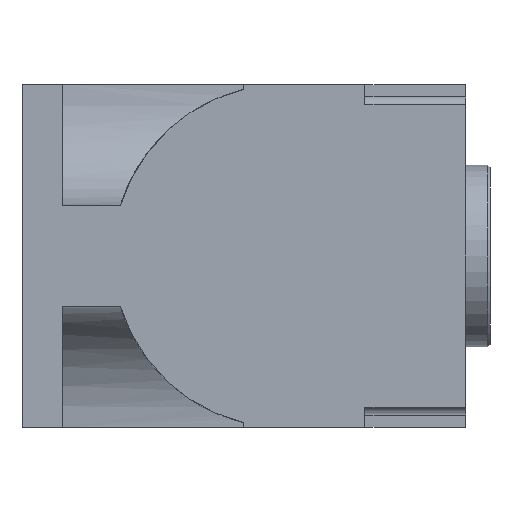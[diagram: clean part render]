
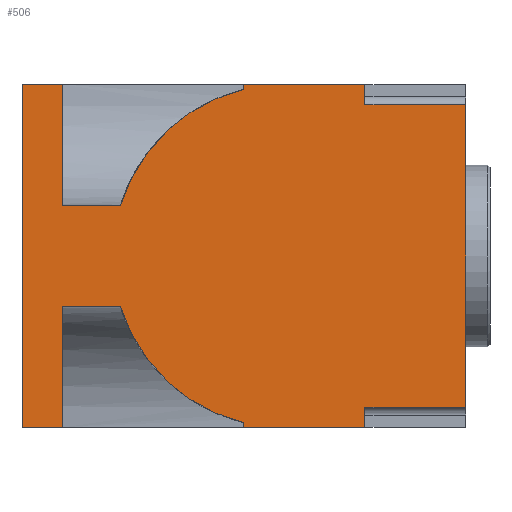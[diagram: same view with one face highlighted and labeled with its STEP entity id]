
A CAD part, front view. The second image highlights one B-rep face of the part: STEP entity #506.
In plain terms, the highlighted planar face has unit normal (0, -1, 0).
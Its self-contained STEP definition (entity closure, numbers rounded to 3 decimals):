
#506 = ADVANCED_FACE( '', ( #1092 ), #1093, .F. );
#1092 = FACE_OUTER_BOUND( '', #1671, .T. );
#1093 = PLANE( '', #1672 );
#1671 = EDGE_LOOP( '', ( #2977, #2978, #2979, #2980, #2981, #2982, #2983, #2984, #2985, #2986, #2987, #2988, #2989, #2990, #2991, #2992, #2993, #2994 ) );
#1672 = AXIS2_PLACEMENT_3D( '', #2995, #2996, #2997 );
#2977 = ORIENTED_EDGE( '', *, *, #3385, .F. );
#2978 = ORIENTED_EDGE( '', *, *, #3197, .T. );
#2979 = ORIENTED_EDGE( '', *, *, #3369, .F. );
#2980 = ORIENTED_EDGE( '', *, *, #3314, .F. );
#2981 = ORIENTED_EDGE( '', *, *, #3366, .T. );
#2982 = ORIENTED_EDGE( '', *, *, #3059, .F. );
#2983 = ORIENTED_EDGE( '', *, *, #3484, .F. );
#2984 = ORIENTED_EDGE( '', *, *, #3250, .F. );
#2985 = ORIENTED_EDGE( '', *, *, #3326, .T. );
#2986 = ORIENTED_EDGE( '', *, *, #3209, .T. );
#2987 = ORIENTED_EDGE( '', *, *, #3403, .F. );
#2988 = ORIENTED_EDGE( '', *, *, #3436, .T. );
#2989 = ORIENTED_EDGE( '', *, *, #3361, .F. );
#2990 = ORIENTED_EDGE( '', *, *, #3323, .T. );
#2991 = ORIENTED_EDGE( '', *, *, #3038, .T. );
#2992 = ORIENTED_EDGE( '', *, *, #3371, .F. );
#2993 = ORIENTED_EDGE( '', *, *, #3164, .F. );
#2994 = ORIENTED_EDGE( '', *, *, #3393, .F. );
#2995 = CARTESIAN_POINT( '', ( 110., -42.5, 42.5 ) );
#2996 = DIRECTION( '', ( 0., 1., 0. ) );
#2997 = DIRECTION( '', ( 0., 0., 1. ) );
#3038 = EDGE_CURVE( '', #3566, #3570, #3572, .T. );
#3059 = EDGE_CURVE( '', #3609, #3611, #3612, .T. );
#3164 = EDGE_CURVE( '', #3787, #3788, #3789, .T. );
#3197 = EDGE_CURVE( '', #3837, #3838, #3839, .T. );
#3209 = EDGE_CURVE( '', #3857, #3855, #3858, .T. );
#3250 = EDGE_CURVE( '', #3925, #3927, #3928, .T. );
#3314 = EDGE_CURVE( '', #4012, #4013, #4014, .T. );
#3323 = EDGE_CURVE( '', #4028, #3566, #4029, .T. );
#3326 = EDGE_CURVE( '', #3925, #3857, #4033, .T. );
#3361 = EDGE_CURVE( '', #4028, #4079, #4080, .T. );
#3366 = EDGE_CURVE( '', #4012, #3611, #4085, .T. );
#3369 = EDGE_CURVE( '', #4013, #3838, #4088, .T. );
#3371 = EDGE_CURVE( '', #3788, #3570, #4090, .T. );
#3385 = EDGE_CURVE( '', #3837, #4107, #4108, .T. );
#3393 = EDGE_CURVE( '', #4107, #3787, #4116, .T. );
#3403 = EDGE_CURVE( '', #4129, #3855, #4131, .T. );
#3436 = EDGE_CURVE( '', #4129, #4079, #4169, .T. );
#3484 = EDGE_CURVE( '', #3927, #3609, #4225, .T. );
#3566 = VERTEX_POINT( '', #4328 );
#3570 = VERTEX_POINT( '', #4334 );
#3572 = LINE( '', #4337, #4338 );
#3609 = VERTEX_POINT( '', #4387 );
#3611 = VERTEX_POINT( '', #4390 );
#3612 = LINE( '', #4391, #4392 );
#3787 = VERTEX_POINT( '', #4636 );
#3788 = VERTEX_POINT( '', #4637 );
#3789 = LINE( '', #4638, #4639 );
#3837 = VERTEX_POINT( '', #4705 );
#3838 = VERTEX_POINT( '', #4706 );
#3839 = LINE( '', #4707, #4708 );
#3855 = VERTEX_POINT( '', #4726 );
#3857 = VERTEX_POINT( '', #4729 );
#3858 = LINE( '', #4730, #4731 );
#3925 = VERTEX_POINT( '', #4844 );
#3927 = VERTEX_POINT( '', #4847 );
#3928 = LINE( '', #4848, #4849 );
#4012 = VERTEX_POINT( '', #4991 );
#4013 = VERTEX_POINT( '', #4992 );
#4014 = LINE( '', #4993, #4994 );
#4028 = VERTEX_POINT( '', #5014 );
#4029 = LINE( '', #5015, #5016 );
#4033 = LINE( '', #5022, #5023 );
#4079 = VERTEX_POINT( '', #5125 );
#4080 = LINE( '', #5126, #5127 );
#4085 = LINE( '', #5132, #5133 );
#4088 = LINE( '', #5137, #5138 );
#4090 = LINE( '', #5141, #5142 );
#4107 = VERTEX_POINT( '', #5164 );
#4108 = CIRCLE( '', #5165, 42.5 );
#4116 = LINE( '', #5214, #5215 );
#4129 = VERTEX_POINT( '', #5231 );
#4131 = CIRCLE( '', #5268, 42.5 );
#4169 = LINE( '', #5338, #5339 );
#4225 = LINE( '', #5422, #5423 );
#4328 = CARTESIAN_POINT( '', ( 0., -42.5, 42.5 ) );
#4334 = CARTESIAN_POINT( '', ( 0., -42.5, -42.5 ) );
#4337 = CARTESIAN_POINT( '', ( 0., -42.5, 42.5 ) );
#4338 = VECTOR( '', #5507, 1000. );
#4387 = CARTESIAN_POINT( '', ( 110., -42.5, 37.5 ) );
#4390 = CARTESIAN_POINT( '', ( 110., -42.5, -37.5 ) );
#4391 = CARTESIAN_POINT( '', ( 110., -42.5, 42.5 ) );
#4392 = VECTOR( '', #5536, 1000. );
#4636 = CARTESIAN_POINT( '', ( 10., -42.5, -12.5 ) );
#4637 = CARTESIAN_POINT( '', ( 10., -42.5, -42.5 ) );
#4638 = CARTESIAN_POINT( '', ( 10., -42.5, 42.5 ) );
#4639 = VECTOR( '', #5646, 1000. );
#4705 = CARTESIAN_POINT( '', ( 55., -42.5, -41.307 ) );
#4706 = CARTESIAN_POINT( '', ( 55., -42.5, -42.5 ) );
#4707 = CARTESIAN_POINT( '', ( 55., -42.5, 42.5 ) );
#4708 = VECTOR( '', #5687, 1000. );
#4726 = CARTESIAN_POINT( '', ( 55., -42.5, 41.307 ) );
#4729 = CARTESIAN_POINT( '', ( 55., -42.5, 42.5 ) );
#4730 = CARTESIAN_POINT( '', ( 55., -42.5, 42.5 ) );
#4731 = VECTOR( '', #5703, 1000. );
#4844 = CARTESIAN_POINT( '', ( 85., -42.5, 42.5 ) );
#4847 = CARTESIAN_POINT( '', ( 85., -42.5, 37.5 ) );
#4848 = CARTESIAN_POINT( '', ( 85., -42.5, 42.5 ) );
#4849 = VECTOR( '', #5760, 1000. );
#4991 = CARTESIAN_POINT( '', ( 85., -42.5, -37.5 ) );
#4992 = CARTESIAN_POINT( '', ( 85., -42.5, -42.5 ) );
#4993 = CARTESIAN_POINT( '', ( 85., -42.5, 42.5 ) );
#4994 = VECTOR( '', #5832, 1000. );
#5014 = CARTESIAN_POINT( '', ( 10., -42.5, 42.5 ) );
#5015 = CARTESIAN_POINT( '', ( 110., -42.5, 42.5 ) );
#5016 = VECTOR( '', #5842, 1000. );
#5022 = CARTESIAN_POINT( '', ( 110., -42.5, 42.5 ) );
#5023 = VECTOR( '', #5845, 1000. );
#5125 = CARTESIAN_POINT( '', ( 10., -42.5, 12.5 ) );
#5126 = CARTESIAN_POINT( '', ( 10., -42.5, 42.5 ) );
#5127 = VECTOR( '', #5876, 1000. );
#5132 = CARTESIAN_POINT( '', ( 85., -42.5, -37.5 ) );
#5133 = VECTOR( '', #5883, 1000. );
#5137 = CARTESIAN_POINT( '', ( 110., -42.5, -42.5 ) );
#5138 = VECTOR( '', #5885, 1000. );
#5141 = CARTESIAN_POINT( '', ( 110., -42.5, -42.5 ) );
#5142 = VECTOR( '', #5887, 1000. );
#5164 = CARTESIAN_POINT( '', ( 24.38, -42.5, -12.5 ) );
#5165 = AXIS2_PLACEMENT_3D( '', #5899, #5900, #5901 );
#5214 = CARTESIAN_POINT( '', ( 55., -42.5, -12.5 ) );
#5215 = VECTOR( '', #5908, 1000. );
#5231 = CARTESIAN_POINT( '', ( 24.38, -42.5, 12.5 ) );
#5268 = AXIS2_PLACEMENT_3D( '', #5918, #5919, #5920 );
#5338 = CARTESIAN_POINT( '', ( 55., -42.5, 12.5 ) );
#5339 = VECTOR( '', #5944, 1000. );
#5422 = CARTESIAN_POINT( '', ( 85., -42.5, 37.5 ) );
#5423 = VECTOR( '', #5971, 1000. );
#5507 = DIRECTION( '', ( 0., 0., -1. ) );
#5536 = DIRECTION( '', ( 0., 0., -1. ) );
#5646 = DIRECTION( '', ( 0., 0., -1. ) );
#5687 = DIRECTION( '', ( 0., 0., -1. ) );
#5703 = DIRECTION( '', ( 0., 0., -1. ) );
#5760 = DIRECTION( '', ( 0., 0., -1. ) );
#5832 = DIRECTION( '', ( 0., 0., -1. ) );
#5842 = DIRECTION( '', ( -1., 0., 0. ) );
#5845 = DIRECTION( '', ( -1., 0., 0. ) );
#5876 = DIRECTION( '', ( 0., 0., -1. ) );
#5883 = DIRECTION( '', ( 1., 0., 0. ) );
#5885 = DIRECTION( '', ( -1., 0., 0. ) );
#5887 = DIRECTION( '', ( -1., 0., 0. ) );
#5899 = CARTESIAN_POINT( '', ( 65., -42.5, 0. ) );
#5900 = DIRECTION( '', ( 0., 1., 0. ) );
#5901 = DIRECTION( '', ( 1., 0., 0. ) );
#5908 = DIRECTION( '', ( -1., 0., 0. ) );
#5918 = CARTESIAN_POINT( '', ( 65., -42.5, 0. ) );
#5919 = DIRECTION( '', ( 0., 1., 0. ) );
#5920 = DIRECTION( '', ( 1., 0., 0. ) );
#5944 = DIRECTION( '', ( -1., 0., 0. ) );
#5971 = DIRECTION( '', ( 1., 0., 0. ) );
